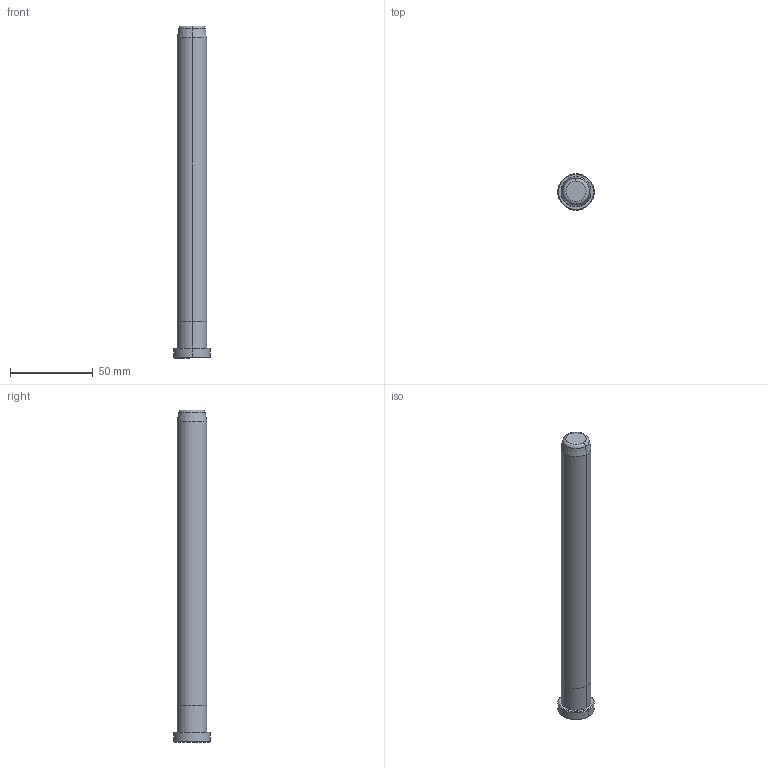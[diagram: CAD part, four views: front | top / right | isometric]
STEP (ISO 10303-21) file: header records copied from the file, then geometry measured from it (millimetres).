
FILE_DESCRIPTION((''),'2;1');
FILE_NAME('B82818200','2018-01-22T',('MANU'),(''),'PRO/ENGINEER BY PARAMETRIC TECHNOLOGY CORPORATION, 2012130','PRO/ENGINEER BY PARAMETRIC TECHNOLOGY CORPORATION, 2012130','');
FILE_SCHEMA(('CONFIG_CONTROL_DESIGN'));
Length unit declared in the file: millimetre
Products named in the file (1): B82818200
Bounding box: 22 x 22 x 200 mm (x, y, z)
Volume: 51380.3 mm3; surface area: 11989.9 mm2
Topology: 1 solids, 1 shells, 18 faces, 34 edges, 20 vertices
Faces by surface type: cone 6, cylinder 6, plane 4, torus 2
Entity records: 494 total; most frequent: DIRECTION 92, CARTESIAN_POINT 72, ORIENTED_EDGE 68, AXIS2_PLACEMENT_3D 40, EDGE_CURVE 34, CIRCLE 22, VERTEX_POINT 20, EDGE_LOOP 20
